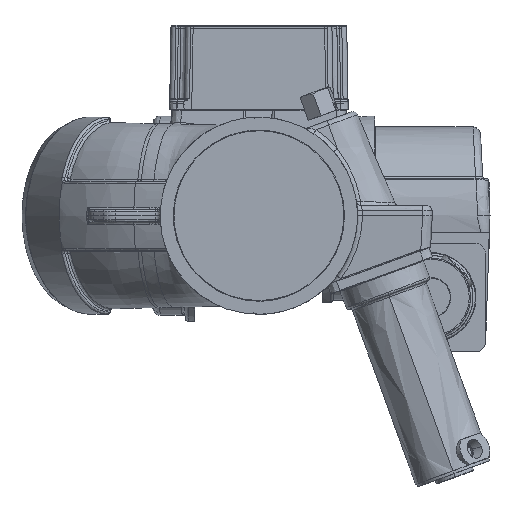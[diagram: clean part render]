
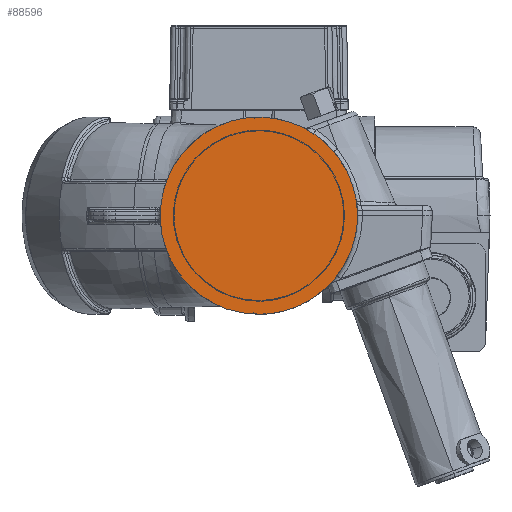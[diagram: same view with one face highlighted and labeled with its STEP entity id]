
A CAD part, front view. The second image highlights one B-rep face of the part: STEP entity #88596.
In plain terms, the highlighted planar face has unit normal (0, 1, 0).
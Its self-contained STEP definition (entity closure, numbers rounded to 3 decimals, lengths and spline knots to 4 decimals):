
#12924 = CARTESIAN_POINT ( 'NONE',  ( 0., -4.0475, 2.5 ) ) ;
#18586 = CARTESIAN_POINT ( 'NONE',  ( 0., -4.0475, 2.5 ) ) ;
#20057 = CARTESIAN_POINT ( 'NONE',  ( -2.53, -4.0475, 2.53 ) ) ;
#20967 = DIRECTION ( 'NONE',  ( 0., -1., 0. ) ) ;
#28634 = EDGE_CURVE ( 'NONE', #155940, #130826, #267475, .T. ) ;
#59218 = CARTESIAN_POINT ( 'NONE',  ( 2.5, -4.0475, 1.4645 ) ) ;
#80211 = CARTESIAN_POINT ( 'NONE',  ( 2.5, -4.0475, -1.4645 ) ) ;
#88596 = ADVANCED_FACE ( 'NONE', ( #234768 ), #270730, .F. ) ;
#95748 = CARTESIAN_POINT ( 'NONE',  ( 0., -4.0475, 2.5 ) ) ;
#96644 = CARTESIAN_POINT ( 'NONE',  ( 0., -4.0475, -2.5 ) ) ;
#101150 = CARTESIAN_POINT ( 'NONE',  ( 0., -4.0475, -2.5 ) ) ;
#114154 = EDGE_CURVE ( 'NONE', #130826, #155940, #249325, .T. ) ;
#122469 = CARTESIAN_POINT ( 'NONE',  ( -2.4999, -4.0475, -0.0236 ) ) ;
#130826 = VERTEX_POINT ( 'NONE', #12924 ) ;
#138523 = CARTESIAN_POINT ( 'NONE',  ( 1.4645, -4.0475, 2.5 ) ) ;
#143433 = CARTESIAN_POINT ( 'NONE',  ( -1.4754, -4.0475, 2.5 ) ) ;
#147641 = ORIENTED_EDGE ( 'NONE', *, *, #114154, .T. ) ;
#155940 = VERTEX_POINT ( 'NONE', #96644 ) ;
#165077 = AXIS2_PLACEMENT_3D ( 'NONE', #20057, #20967, #166813 ) ;
#166813 = DIRECTION ( 'NONE',  ( 0., 0., -1. ) ) ;
#167699 = ORIENTED_EDGE ( 'NONE', *, *, #28634, .T. ) ;
#184485 = CARTESIAN_POINT ( 'NONE',  ( 0., -4.0475, -2.5 ) ) ;
#199208 = EDGE_LOOP ( 'NONE', ( #167699, #147641 ) ) ;
#205088 = CARTESIAN_POINT ( 'NONE',  ( 2.5, -4.0475, 0. ) ) ;
#226059 = CARTESIAN_POINT ( 'NONE',  ( 1.4645, -4.0475, -2.5 ) ) ;
#226423 = CARTESIAN_POINT ( 'NONE',  ( -1.4559, -4.0475, -2.5 ) ) ;
#234768 = FACE_OUTER_BOUND ( 'NONE', #199208, .T. ) ;
#247371 = CARTESIAN_POINT ( 'NONE',  ( -2.4862, -4.0475, -1.4747 ) ) ;
#249325 =( BOUNDED_CURVE ( )  B_SPLINE_CURVE ( 3, ( #95748, #138523, #59218, #205088, #80211, #226059, #101150 ),
 .UNSPECIFIED., .F., .F. ) 
 B_SPLINE_CURVE_WITH_KNOTS ( ( 4, 3, 4 ),
 ( 0., 0.0992, 0.1985 ),
 .UNSPECIFIED. ) 
 CURVE ( )  GEOMETRIC_REPRESENTATION_ITEM ( )  RATIONAL_B_SPLINE_CURVE ( ( 1., 0.805, 0.805, 1., 0.805, 0.805, 1. ) ) 
 REPRESENTATION_ITEM ( '' )  );
#267475 =( BOUNDED_CURVE ( )  B_SPLINE_CURVE ( 3, ( #184485, #226423, #247371, #122469, #268376, #143433, #18586 ),
 .UNSPECIFIED., .F., .F. ) 
 B_SPLINE_CURVE_WITH_KNOTS ( ( 4, 3, 4 ),
 ( 0., 0.0986, 0.1985 ),
 .UNSPECIFIED. ) 
 CURVE ( )  GEOMETRIC_REPRESENTATION_ITEM ( )  RATIONAL_B_SPLINE_CURVE ( ( 0.992, 0.803, 0.805, 1., 0.803, 0.803, 1. ) ) 
 REPRESENTATION_ITEM ( '' )  );
#268376 = CARTESIAN_POINT ( 'NONE',  ( -2.5138, -4.0475, 1.4518 ) ) ;
#270730 = PLANE ( 'NONE',  #165077 ) ;
